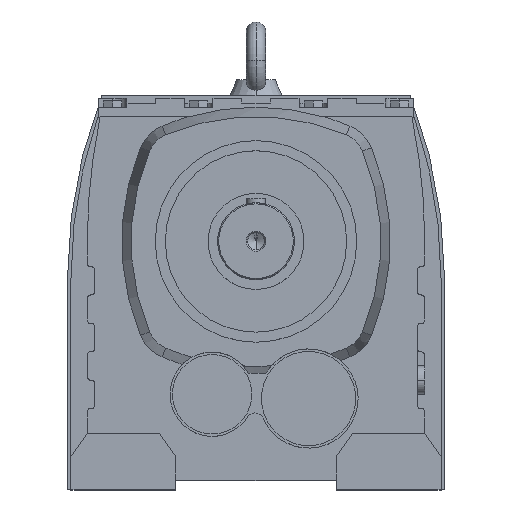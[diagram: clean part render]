
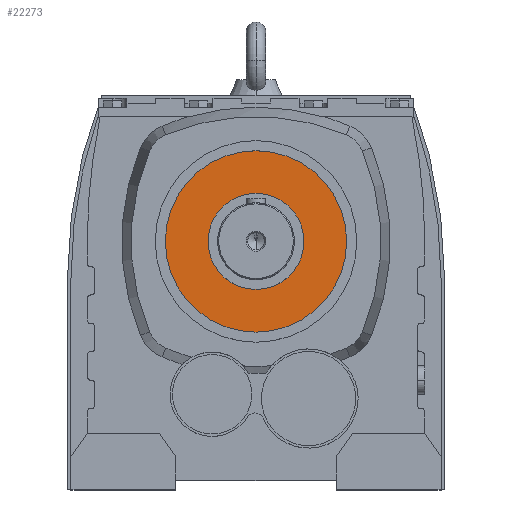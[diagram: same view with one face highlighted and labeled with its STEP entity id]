
A CAD part, top view. The second image highlights one B-rep face of the part: STEP entity #22273.
In plain terms, the highlighted planar face has unit normal (0, 0, 1).
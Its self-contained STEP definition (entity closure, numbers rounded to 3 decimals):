
#17541 = CYLINDRICAL_SURFACE('',#17542,129.938);
#17542 = AXIS2_PLACEMENT_3D('',#17543,#17544,#17545);
#17543 = CARTESIAN_POINT('',(0.,33.4,695.));
#17544 = DIRECTION('',(0.,0.,1.));
#17545 = DIRECTION('',(0.,-1.,0.));
#17571 = CYLINDRICAL_SURFACE('',#17572,129.938);
#17572 = AXIS2_PLACEMENT_3D('',#17573,#17574,#17575);
#17573 = CARTESIAN_POINT('',(0.,33.4,695.));
#17574 = DIRECTION('',(0.,0.,1.));
#17575 = DIRECTION('',(0.,-1.,0.));
#21283 = VERTEX_POINT('',#21284);
#21284 = CARTESIAN_POINT('',(0.,163.338,464.));
#21305 = VERTEX_POINT('',#21306);
#21306 = CARTESIAN_POINT('',(0.,-96.538,464.));
#21325 = EDGE_CURVE('',#21283,#21305,#21326,.T.);
#21326 = SURFACE_CURVE('',#21327,(#21332,#21338),.PCURVE_S1.);
#21327 = CIRCLE('',#21328,129.938);
#21328 = AXIS2_PLACEMENT_3D('',#21329,#21330,#21331);
#21329 = CARTESIAN_POINT('',(0.,33.4,464.));
#21330 = DIRECTION('',(0.,0.,-1.));
#21331 = DIRECTION('',(-1.,0.,0.));
#21332 = PCURVE('',#17541,#21333);
#21333 = DEFINITIONAL_REPRESENTATION('',(#21334),#21337);
#21334 = B_SPLINE_CURVE_WITH_KNOTS('',1,(#21335,#21336),.UNSPECIFIED.,
  .F.,.F.,(2,2),(1.571,4.712),
  .PIECEWISE_BEZIER_KNOTS.);
#21335 = CARTESIAN_POINT('',(3.142,-231.));
#21336 = CARTESIAN_POINT('',(0.,-231.));
#21337 = ( GEOMETRIC_REPRESENTATION_CONTEXT(2) 
PARAMETRIC_REPRESENTATION_CONTEXT() REPRESENTATION_CONTEXT('2D SPACE',''
  ) );
#21338 = PCURVE('',#21339,#21344);
#21339 = PLANE('',#21340);
#21340 = AXIS2_PLACEMENT_3D('',#21341,#21342,#21343);
#21341 = CARTESIAN_POINT('',(-56.051,12.451,464.));
#21342 = DIRECTION('',(0.,0.,-1.));
#21343 = DIRECTION('',(-1.,0.,0.));
#21344 = DEFINITIONAL_REPRESENTATION('',(#21345),#21349);
#21345 = CIRCLE('',#21346,129.938);
#21346 = AXIS2_PLACEMENT_2D('',#21347,#21348);
#21347 = CARTESIAN_POINT('',(-56.051,20.949));
#21348 = DIRECTION('',(1.,0.));
#21349 = ( GEOMETRIC_REPRESENTATION_CONTEXT(2) 
PARAMETRIC_REPRESENTATION_CONTEXT() REPRESENTATION_CONTEXT('2D SPACE',''
  ) );
#21354 = EDGE_CURVE('',#21305,#21283,#21355,.T.);
#21355 = SURFACE_CURVE('',#21356,(#21361,#21367),.PCURVE_S1.);
#21356 = CIRCLE('',#21357,129.938);
#21357 = AXIS2_PLACEMENT_3D('',#21358,#21359,#21360);
#21358 = CARTESIAN_POINT('',(0.,33.4,464.));
#21359 = DIRECTION('',(0.,0.,-1.));
#21360 = DIRECTION('',(-1.,0.,0.));
#21361 = PCURVE('',#17571,#21362);
#21362 = DEFINITIONAL_REPRESENTATION('',(#21363),#21366);
#21363 = B_SPLINE_CURVE_WITH_KNOTS('',1,(#21364,#21365),.UNSPECIFIED.,
  .F.,.F.,(2,2),(4.712,7.854),
  .PIECEWISE_BEZIER_KNOTS.);
#21364 = CARTESIAN_POINT('',(6.283,-231.));
#21365 = CARTESIAN_POINT('',(3.142,-231.));
#21366 = ( GEOMETRIC_REPRESENTATION_CONTEXT(2) 
PARAMETRIC_REPRESENTATION_CONTEXT() REPRESENTATION_CONTEXT('2D SPACE',''
  ) );
#21367 = PCURVE('',#21339,#21368);
#21368 = DEFINITIONAL_REPRESENTATION('',(#21369),#21373);
#21369 = CIRCLE('',#21370,129.938);
#21370 = AXIS2_PLACEMENT_2D('',#21371,#21372);
#21371 = CARTESIAN_POINT('',(-56.051,20.949));
#21372 = DIRECTION('',(1.,0.));
#21373 = ( GEOMETRIC_REPRESENTATION_CONTEXT(2) 
PARAMETRIC_REPRESENTATION_CONTEXT() REPRESENTATION_CONTEXT('2D SPACE',''
  ) );
#22273 = ADVANCED_FACE('',(#22274,#22278),#21339,.F.);
#22274 = FACE_BOUND('',#22275,.T.);
#22275 = EDGE_LOOP('',(#22276,#22277));
#22276 = ORIENTED_EDGE('',*,*,#21354,.F.);
#22277 = ORIENTED_EDGE('',*,*,#21325,.F.);
#22278 = FACE_BOUND('',#22279,.T.);
#22279 = EDGE_LOOP('',(#22280,#22314));
#22280 = ORIENTED_EDGE('',*,*,#22281,.F.);
#22281 = EDGE_CURVE('',#22282,#22284,#22286,.T.);
#22282 = VERTEX_POINT('',#22283);
#22283 = CARTESIAN_POINT('',(0.,-35.35,464.));
#22284 = VERTEX_POINT('',#22285);
#22285 = CARTESIAN_POINT('',(0.,102.15,464.));
#22286 = SURFACE_CURVE('',#22287,(#22292,#22303),.PCURVE_S1.);
#22287 = CIRCLE('',#22288,68.75);
#22288 = AXIS2_PLACEMENT_3D('',#22289,#22290,#22291);
#22289 = CARTESIAN_POINT('',(0.,33.4,464.));
#22290 = DIRECTION('',(0.,0.,1.));
#22291 = DIRECTION('',(-1.,0.,0.));
#22292 = PCURVE('',#21339,#22293);
#22293 = DEFINITIONAL_REPRESENTATION('',(#22294),#22302);
#22294 = ( BOUNDED_CURVE() B_SPLINE_CURVE(2,(#22295,#22296,#22297,#22298
    ,#22299,#22300,#22301),.UNSPECIFIED.,.F.,.F.) 
B_SPLINE_CURVE_WITH_KNOTS((1,2,2,2,2,1),(-2.094,0.,
    2.094,4.189,6.283,8.378),
.UNSPECIFIED.) CURVE() GEOMETRIC_REPRESENTATION_ITEM() 
RATIONAL_B_SPLINE_CURVE((1.,0.5,1.,0.5,1.,0.5,1.)) REPRESENTATION_ITEM(
  '') );
#22295 = CARTESIAN_POINT('',(12.699,20.949));
#22296 = CARTESIAN_POINT('',(12.699,-98.129));
#22297 = CARTESIAN_POINT('',(-90.426,-38.59));
#22298 = CARTESIAN_POINT('',(-193.551,20.949));
#22299 = CARTESIAN_POINT('',(-90.426,80.489));
#22300 = CARTESIAN_POINT('',(12.699,140.028));
#22301 = CARTESIAN_POINT('',(12.699,20.949));
#22302 = ( GEOMETRIC_REPRESENTATION_CONTEXT(2) 
PARAMETRIC_REPRESENTATION_CONTEXT() REPRESENTATION_CONTEXT('2D SPACE',''
  ) );
#22303 = PCURVE('',#22304,#22309);
#22304 = CYLINDRICAL_SURFACE('',#22305,68.75);
#22305 = AXIS2_PLACEMENT_3D('',#22306,#22307,#22308);
#22306 = CARTESIAN_POINT('',(0.,33.4,695.));
#22307 = DIRECTION('',(0.,0.,1.));
#22308 = DIRECTION('',(0.,-1.,0.));
#22309 = DEFINITIONAL_REPRESENTATION('',(#22310),#22313);
#22310 = B_SPLINE_CURVE_WITH_KNOTS('',1,(#22311,#22312),.UNSPECIFIED.,
  .F.,.F.,(2,2),(1.571,4.712),
  .PIECEWISE_BEZIER_KNOTS.);
#22311 = CARTESIAN_POINT('',(0.,-231.));
#22312 = CARTESIAN_POINT('',(3.142,-231.));
#22313 = ( GEOMETRIC_REPRESENTATION_CONTEXT(2) 
PARAMETRIC_REPRESENTATION_CONTEXT() REPRESENTATION_CONTEXT('2D SPACE',''
  ) );
#22314 = ORIENTED_EDGE('',*,*,#22315,.F.);
#22315 = EDGE_CURVE('',#22284,#22282,#22316,.T.);
#22316 = SURFACE_CURVE('',#22317,(#22322,#22333),.PCURVE_S1.);
#22317 = CIRCLE('',#22318,68.75);
#22318 = AXIS2_PLACEMENT_3D('',#22319,#22320,#22321);
#22319 = CARTESIAN_POINT('',(0.,33.4,464.));
#22320 = DIRECTION('',(0.,0.,1.));
#22321 = DIRECTION('',(-1.,0.,0.));
#22322 = PCURVE('',#21339,#22323);
#22323 = DEFINITIONAL_REPRESENTATION('',(#22324),#22332);
#22324 = ( BOUNDED_CURVE() B_SPLINE_CURVE(2,(#22325,#22326,#22327,#22328
    ,#22329,#22330,#22331),.UNSPECIFIED.,.F.,.F.) 
B_SPLINE_CURVE_WITH_KNOTS((1,2,2,2,2,1),(-2.094,0.,
    2.094,4.189,6.283,8.378),
.UNSPECIFIED.) CURVE() GEOMETRIC_REPRESENTATION_ITEM() 
RATIONAL_B_SPLINE_CURVE((1.,0.5,1.,0.5,1.,0.5,1.)) REPRESENTATION_ITEM(
  '') );
#22325 = CARTESIAN_POINT('',(12.699,20.949));
#22326 = CARTESIAN_POINT('',(12.699,-98.129));
#22327 = CARTESIAN_POINT('',(-90.426,-38.59));
#22328 = CARTESIAN_POINT('',(-193.551,20.949));
#22329 = CARTESIAN_POINT('',(-90.426,80.489));
#22330 = CARTESIAN_POINT('',(12.699,140.028));
#22331 = CARTESIAN_POINT('',(12.699,20.949));
#22332 = ( GEOMETRIC_REPRESENTATION_CONTEXT(2) 
PARAMETRIC_REPRESENTATION_CONTEXT() REPRESENTATION_CONTEXT('2D SPACE',''
  ) );
#22333 = PCURVE('',#22334,#22339);
#22334 = CYLINDRICAL_SURFACE('',#22335,68.75);
#22335 = AXIS2_PLACEMENT_3D('',#22336,#22337,#22338);
#22336 = CARTESIAN_POINT('',(0.,33.4,695.));
#22337 = DIRECTION('',(0.,0.,1.));
#22338 = DIRECTION('',(0.,-1.,0.));
#22339 = DEFINITIONAL_REPRESENTATION('',(#22340),#22343);
#22340 = B_SPLINE_CURVE_WITH_KNOTS('',1,(#22341,#22342),.UNSPECIFIED.,
  .F.,.F.,(2,2),(4.712,7.854),
  .PIECEWISE_BEZIER_KNOTS.);
#22341 = CARTESIAN_POINT('',(3.142,-231.));
#22342 = CARTESIAN_POINT('',(6.283,-231.));
#22343 = ( GEOMETRIC_REPRESENTATION_CONTEXT(2) 
PARAMETRIC_REPRESENTATION_CONTEXT() REPRESENTATION_CONTEXT('2D SPACE',''
  ) );
